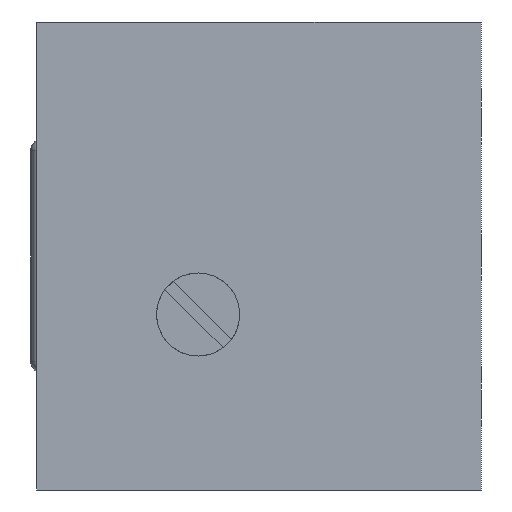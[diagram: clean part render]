
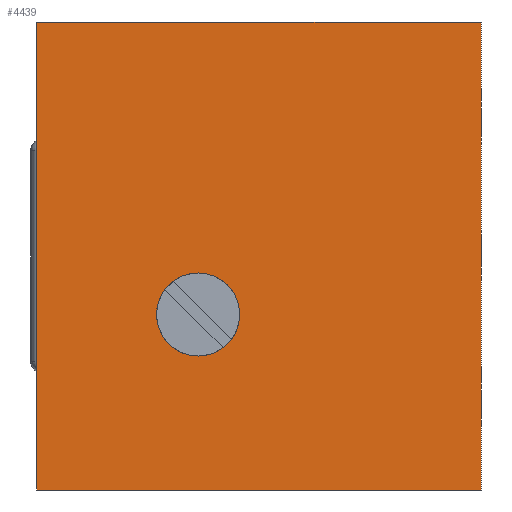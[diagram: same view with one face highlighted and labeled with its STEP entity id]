
A CAD part, left-side view. The second image highlights one B-rep face of the part: STEP entity #4439.
In plain terms, the highlighted planar face has unit normal (-1, 0, 0).
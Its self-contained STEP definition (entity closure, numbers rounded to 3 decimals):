
#1 = LINE ( 'NONE', #3278, #5056 ) ;
#58 = ORIENTED_EDGE ( 'NONE', *, *, #4825, .T. ) ;
#146 = EDGE_CURVE ( 'NONE', #5150, #3189, #5514, .T. ) ;
#261 = VERTEX_POINT ( 'NONE', #1460 ) ;
#304 = ORIENTED_EDGE ( 'NONE', *, *, #3927, .F. ) ;
#323 = ORIENTED_EDGE ( 'NONE', *, *, #578, .T. ) ;
#416 = CARTESIAN_POINT ( 'NONE',  ( 0., 24.2, -28.55 ) ) ;
#559 = PLANE ( 'NONE',  #4910 ) ;
#578 = EDGE_CURVE ( 'NONE', #4794, #2768, #1, .T. ) ;
#843 = DIRECTION ( 'NONE',  ( 0., 0., 1. ) ) ;
#874 = DIRECTION ( 'NONE',  ( -1., 0., 0. ) ) ;
#878 = VECTOR ( 'NONE', #3760, 1000. ) ;
#1150 = CARTESIAN_POINT ( 'NONE',  ( 0., 24.2, -25. ) ) ;
#1153 = DIRECTION ( 'NONE',  ( -1., 0., 0. ) ) ;
#1160 = DIRECTION ( 'NONE',  ( 0., 0., 1. ) ) ;
#1288 = LINE ( 'NONE', #5081, #1359 ) ;
#1320 = EDGE_CURVE ( 'NONE', #4794, #5305, #1288, .T. ) ;
#1359 = VECTOR ( 'NONE', #5554, 1000. ) ;
#1406 = CARTESIAN_POINT ( 'NONE',  ( 0., 38., -40. ) ) ;
#1460 = CARTESIAN_POINT ( 'NONE',  ( 0., 0., 0. ) ) ;
#1617 = LINE ( 'NONE', #4807, #3151 ) ;
#1644 = ORIENTED_EDGE ( 'NONE', *, *, #1320, .F. ) ;
#1706 = CIRCLE ( 'NONE', #4311, 3.55 ) ;
#1829 = CARTESIAN_POINT ( 'NONE',  ( 0., 38., 0. ) ) ;
#1941 = CARTESIAN_POINT ( 'NONE',  ( 0., 0., 0. ) ) ;
#2109 = AXIS2_PLACEMENT_3D ( 'NONE', #1150, #1153, #1160 ) ;
#2122 = LINE ( 'NONE', #1941, #878 ) ;
#2428 = DIRECTION ( 'NONE',  ( 0., 0., 1. ) ) ;
#2529 = FACE_BOUND ( 'NONE', #4293, .T. ) ;
#2562 = EDGE_LOOP ( 'NONE', ( #3356, #1644, #323, #58 ) ) ;
#2768 = VERTEX_POINT ( 'NONE', #3687 ) ;
#2967 = FACE_OUTER_BOUND ( 'NONE', #2562, .T. ) ;
#2970 = DIRECTION ( 'NONE',  ( 0., -1., 0. ) ) ;
#3151 = VECTOR ( 'NONE', #2428, 1000. ) ;
#3189 = VERTEX_POINT ( 'NONE', #416 ) ;
#3253 = ORIENTED_EDGE ( 'NONE', *, *, #146, .F. ) ;
#3278 = CARTESIAN_POINT ( 'NONE',  ( 0., 0., -40. ) ) ;
#3356 = ORIENTED_EDGE ( 'NONE', *, *, #4303, .F. ) ;
#3687 = CARTESIAN_POINT ( 'NONE',  ( 0., 0., -40. ) ) ;
#3760 = DIRECTION ( 'NONE',  ( 0., -1., 0. ) ) ;
#3927 = EDGE_CURVE ( 'NONE', #3189, #5150, #1706, .T. ) ;
#4293 = EDGE_LOOP ( 'NONE', ( #3253, #304 ) ) ;
#4303 = EDGE_CURVE ( 'NONE', #5305, #261, #2122, .T. ) ;
#4311 = AXIS2_PLACEMENT_3D ( 'NONE', #5614, #5617, #5625 ) ;
#4427 = CARTESIAN_POINT ( 'NONE',  ( 0., 24.2, -21.45 ) ) ;
#4439 = ADVANCED_FACE ( 'NONE', ( #2529, #2967 ), #559, .T. ) ;
#4794 = VERTEX_POINT ( 'NONE', #1406 ) ;
#4807 = CARTESIAN_POINT ( 'NONE',  ( 0., 0., -40. ) ) ;
#4825 = EDGE_CURVE ( 'NONE', #2768, #261, #1617, .T. ) ;
#4910 = AXIS2_PLACEMENT_3D ( 'NONE', #5216, #874, #843 ) ;
#5056 = VECTOR ( 'NONE', #2970, 1000. ) ;
#5081 = CARTESIAN_POINT ( 'NONE',  ( 0., 38., -40. ) ) ;
#5150 = VERTEX_POINT ( 'NONE', #4427 ) ;
#5216 = CARTESIAN_POINT ( 'NONE',  ( 0., 0., -40. ) ) ;
#5305 = VERTEX_POINT ( 'NONE', #1829 ) ;
#5514 = CIRCLE ( 'NONE', #2109, 3.55 ) ;
#5554 = DIRECTION ( 'NONE',  ( 0., 0., 1. ) ) ;
#5614 = CARTESIAN_POINT ( 'NONE',  ( 0., 24.2, -25. ) ) ;
#5617 = DIRECTION ( 'NONE',  ( -1., 0., 0. ) ) ;
#5625 = DIRECTION ( 'NONE',  ( 0., 0., 1. ) ) ;
